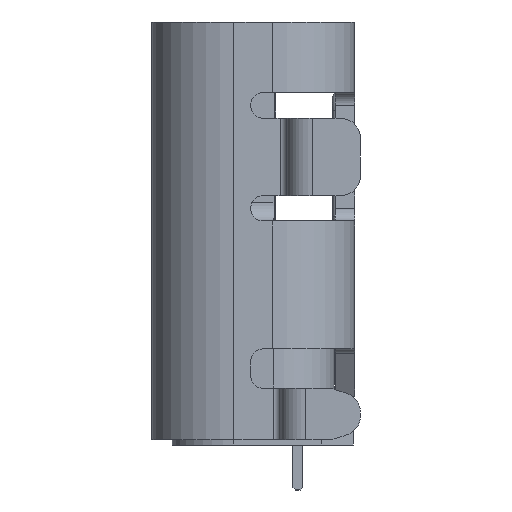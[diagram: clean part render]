
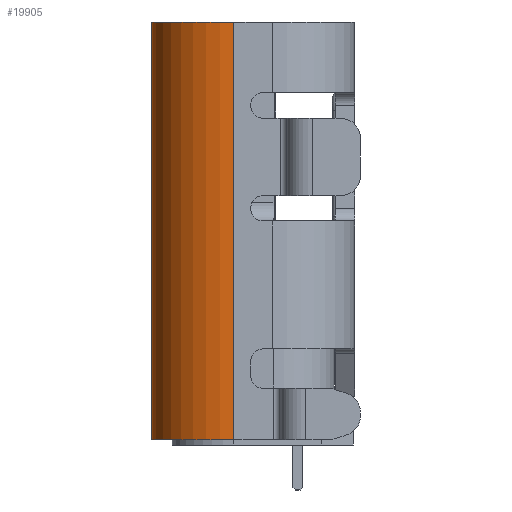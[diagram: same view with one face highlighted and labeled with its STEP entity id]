
A CAD part, left-side view. The second image highlights one B-rep face of the part: STEP entity #19905.
In plain terms, the highlighted cylindrical face has radius 1.28 mm (diameter 2.56 mm), a partial arc.
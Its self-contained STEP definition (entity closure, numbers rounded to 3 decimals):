
#1783=DIRECTION('',(0.,0.,1.));
#1784=VECTOR('',#1783,6.5);
#1785=CARTESIAN_POINT('',(-3.19,1.58,-1.7));
#1786=LINE('',#1785,#1784);
#2608=CARTESIAN_POINT('',(-3.19,0.3,4.8));
#2609=DIRECTION('',(0.,0.,-1.));
#2610=DIRECTION('',(-1.,0.,0.));
#2611=AXIS2_PLACEMENT_3D('',#2608,#2609,#2610);
#5854=CARTESIAN_POINT('',(-3.19,0.3,-1.7));
#5855=DIRECTION('',(0.,0.,-1.));
#5856=DIRECTION('',(-1.,0.,0.));
#5857=AXIS2_PLACEMENT_3D('',#5854,#5855,#5856);
#5859=DIRECTION('',(0.,0.,1.));
#5860=VECTOR('',#5859,6.5);
#5861=CARTESIAN_POINT('',(-4.47,0.3,-1.7));
#5862=LINE('',#5861,#5860);
#9324=CARTESIAN_POINT('',(-4.47,0.3,-1.7));
#9325=CARTESIAN_POINT('',(-3.19,1.58,-1.7));
#9326=VERTEX_POINT('',#9324);
#9327=VERTEX_POINT('',#9325);
#9328=CARTESIAN_POINT('',(-3.19,1.58,4.8));
#9330=VERTEX_POINT('',#9328);
#9342=CARTESIAN_POINT('',(-4.47,0.3,4.8));
#9343=VERTEX_POINT('',#9342);
#19893=CARTESIAN_POINT('',(-3.19,0.3,-1.7));
#19894=DIRECTION('',(0.,0.,1.));
#19895=DIRECTION('',(1.,0.,0.));
#19896=AXIS2_PLACEMENT_3D('',#19893,#19894,#19895);
#19897=CYLINDRICAL_SURFACE('',#19896,1.28);
#19898=ORIENTED_EDGE('',*,*,#19886,.T.);
#19899=ORIENTED_EDGE('',*,*,#12980,.T.);
#19900=ORIENTED_EDGE('',*,*,#13872,.F.);
#19902=ORIENTED_EDGE('',*,*,#19901,.F.);
#19903=EDGE_LOOP('',(#19898,#19899,#19900,#19902));
#19904=FACE_OUTER_BOUND('',#19903,.F.);
#2612=CIRCLE('',#2611,1.28);
#5858=CIRCLE('',#5857,1.28);
#12980=EDGE_CURVE('',#9327,#9330,#1786,.T.);
#13872=EDGE_CURVE('',#9343,#9330,#2612,.T.);
#19886=EDGE_CURVE('',#9326,#9327,#5858,.T.);
#19901=EDGE_CURVE('',#9326,#9343,#5862,.T.);
#19905=ADVANCED_FACE('',(#19904),#19897,.T.);
